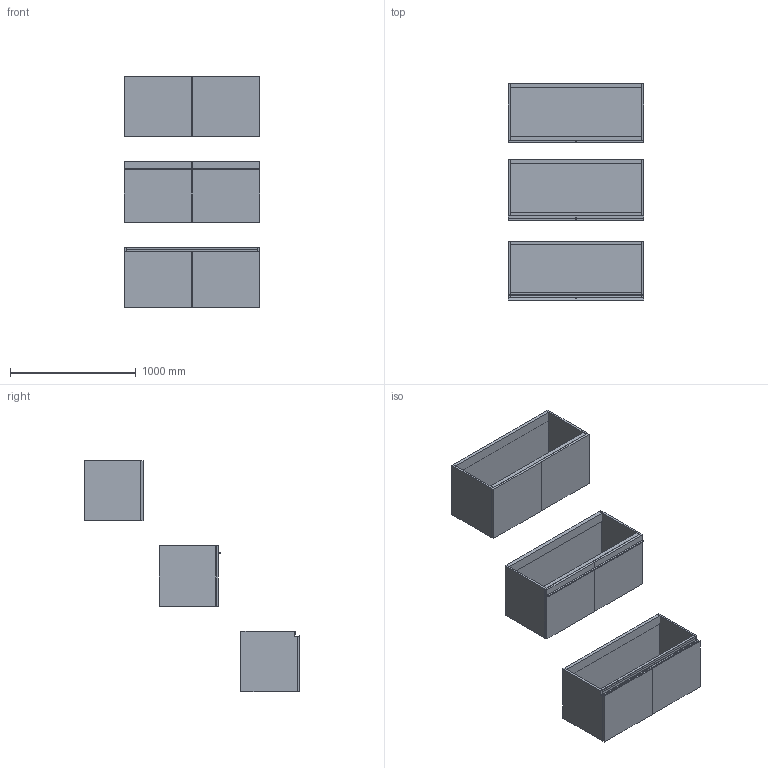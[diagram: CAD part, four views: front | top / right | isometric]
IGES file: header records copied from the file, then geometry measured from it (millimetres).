
Start section: Data from Parasolid IGES Translator 19.0.9, Copyright(c) 2006 Siemens PL M Software. All Rights Reserved.
Global section: file name: noorth-SI-H 48 D 47 W 108_8473.igs; native system: By Siemens PLM Incorporated; preprocessor: XPlus GENERIC/IGES 19.0.9; author: Noname; organization: Noname; date: 20200601.105236; units: metre
Bounding box: 1080 x 1719.1 x 1840.01 mm (x, y, z)
Volume: 85192300.5 mm3; surface area: 12984064.2 mm2
Topology: 27 solids, 27 shells, 264 faces, 566 edges, 336 vertices
Faces by surface type: plane 180, extrusion 32, bspline 32, cylinder 20
